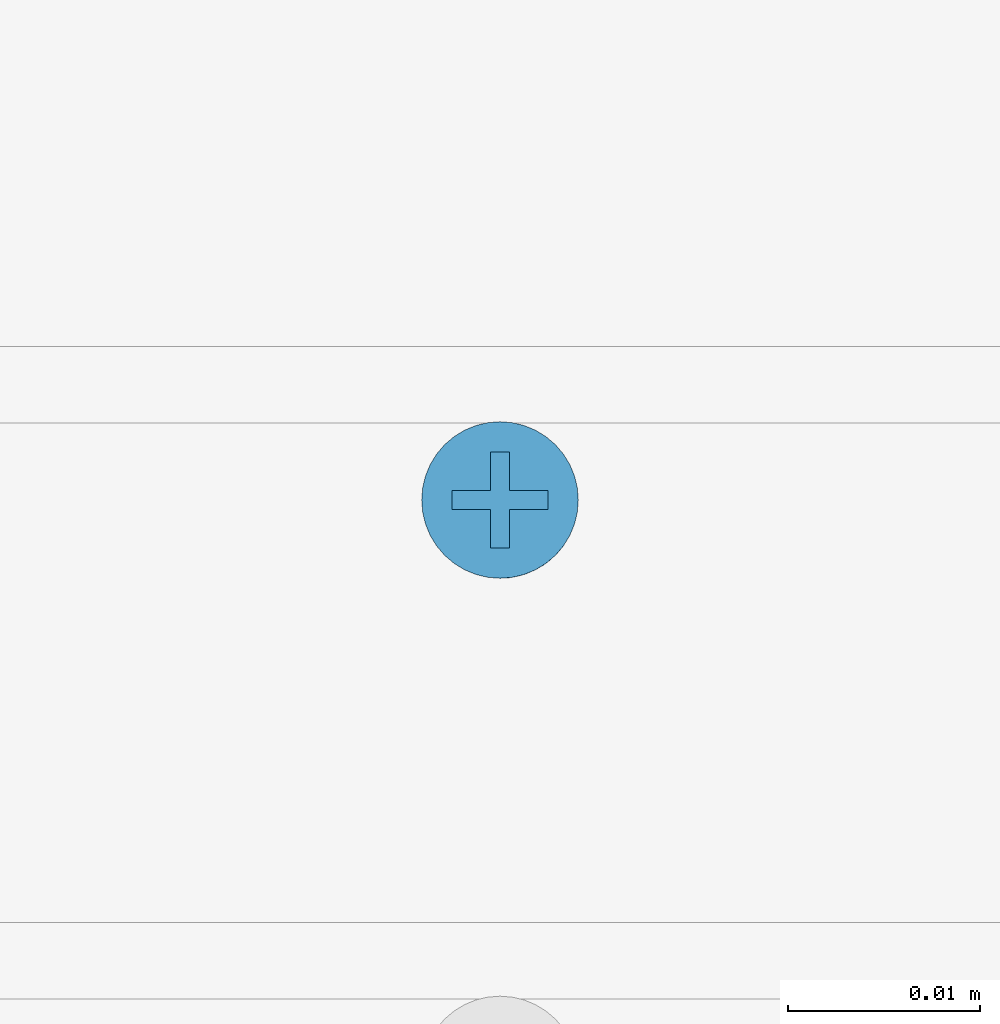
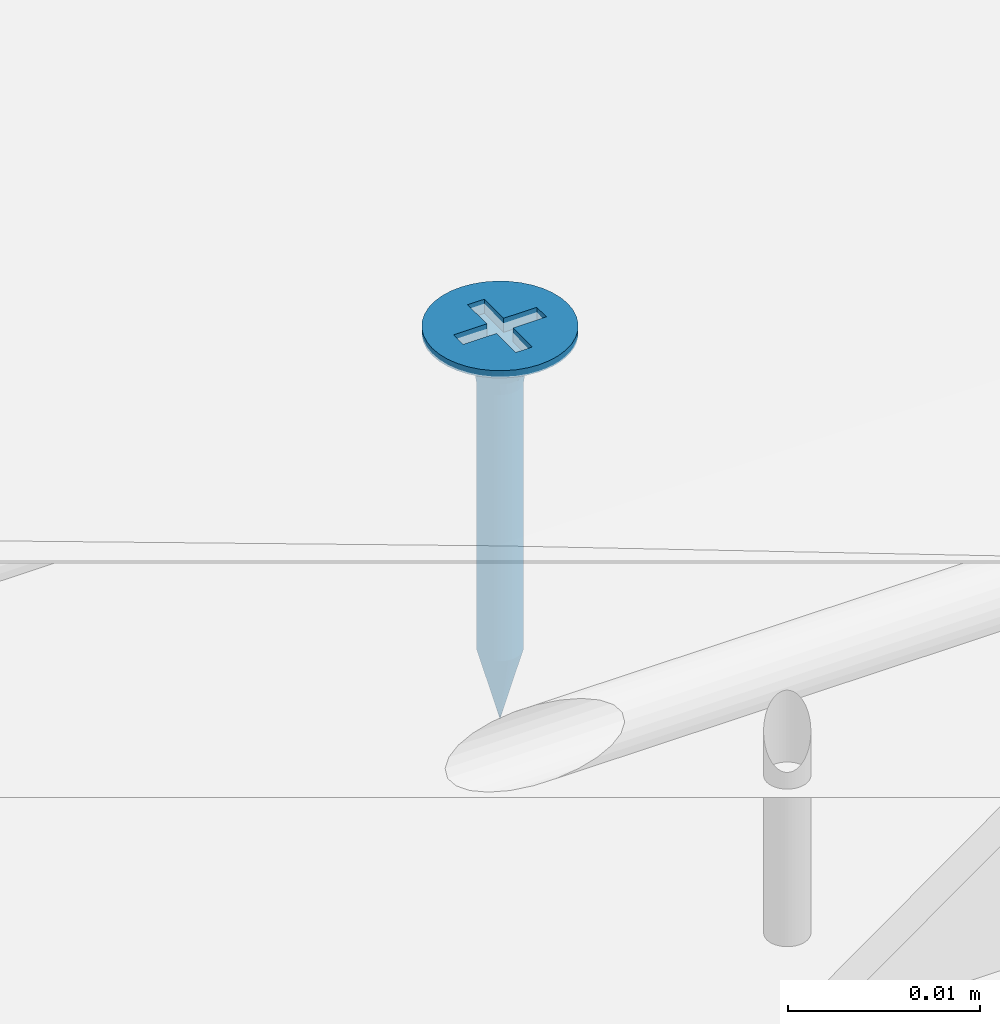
# One storey, part 5 of 38: 1 slab.
"""IFC2X3 building model written with IfcOpenShell, lengths in millimetres."""

from ifc_helpers import new_model, entity, si_unit, converted_unit, direction, frame, origin, origin_with_axes, place, context, project, spatial, faceted_brep, element, save


model = new_model("IFC2X3")

# Units and contexts
model_context = context("Model", 3, precision=1e-05, world=origin(), true_north=direction((0.0, 1.0, 0.0)))
ifc_project = project(units=[si_unit("LENGTHUNIT", "METRE", prefix="MILLI"), si_unit("AREAUNIT", "SQUARE_METRE"), si_unit("VOLUMEUNIT", "CUBIC_METRE"), converted_unit("PLANEANGLEUNIT", "DEGREE", entity("IfcPlaneAngleMeasure", 0.01745), si_unit("PLANEANGLEUNIT", "RADIAN"), dimensions=[0, 0, 0, 0, 0, 0, 0]), si_unit("SOLIDANGLEUNIT", "STERADIAN"), si_unit("MASSUNIT", "GRAM"), si_unit("TIMEUNIT", "SECOND"), si_unit("THERMODYNAMICTEMPERATUREUNIT", "DEGREE_CELSIUS"), si_unit("LUMINOUSINTENSITYUNIT", "LUMEN")], contexts=[model_context])

# Site, building, storey
site_placement = place(None, origin_with_axes())
site = spatial("IfcSite", under=ifc_project, at=site_placement, Name="Default Site", CompositionType="ELEMENT")
building_placement = place(site_placement, origin_with_axes())
building = spatial("IfcBuilding", under=site, at=building_placement, Name="Default Building", CompositionType="ELEMENT")
storey_placement = place(building_placement, origin_with_axes())
storey = spatial("IfcBuildingStorey", under=building, at=storey_placement, Name="Default Building Storey", CompositionType="ELEMENT", Elevation=0.0)

# Slab
slab_placement = place(storey_placement, frame((2385.048962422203, 958.3800775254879, -3328.636918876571), z_axis=(-1.85031715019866e-13, 1.0, -1.136587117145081e-12), x_axis=(-1.0, -1.850317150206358e-13, -6.773047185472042e-13)))
element("IfcSlab", 1, at=slab_placement, inside=storey, Name="Wkręt RIGIPS Rigidur 3,9x19 mm", context=model_context, shape_type="Brep", body=[
    faceted_brep([(-141.5377463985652, 3390.556721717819, 555.8000000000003), (-141.5377463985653, 3391.020944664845, 555.8000000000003), (-141.4875329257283, 3391.020944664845, 555.1619773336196), (-141.4875329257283, 3390.556721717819, 555.1619773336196), (-141.3381289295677, 3391.020944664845, 554.5396649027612), (-141.3381289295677, 3390.556721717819, 554.5396649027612), (-141.0932132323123, 3391.020944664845, 553.9483861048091), (-141.0932132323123, 3390.556721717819, 553.9483861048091), (-140.7588164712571, 3391.020944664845, 553.4027001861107), (-140.7588164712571, 3390.556721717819, 553.4027001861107), (-140.3431726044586, 3391.020944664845, 552.9160437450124), (-140.4541727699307, 3390.556721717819, 553.0314907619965), (-140.1080097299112, 3390.556721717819, 552.6986614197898), (-139.8565161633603, 3391.020944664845, 552.5003998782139), (-139.7251262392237, 3390.556721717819, 552.4088262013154), (-139.310830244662, 3391.020944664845, 552.1660031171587), (-139.310830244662, 3390.556721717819, 552.1660031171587), (-138.8708651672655, 3390.556721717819, 551.9735584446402), (-138.7195514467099, 3391.020944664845, 551.9210874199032), (-138.4113302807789, 3390.556721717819, 551.8341600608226), (-137.9385961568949, 3390.556721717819, 551.7497404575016), (-138.0972390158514, 3391.020944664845, 551.7716834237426), (-137.4592163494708, 3391.020944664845, 551.7214699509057), (-137.4592163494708, 3390.556721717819, 551.7214699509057), (-136.8211936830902, 3391.020944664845, 551.7716834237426), (-136.8211936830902, 3390.556721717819, 551.7716834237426), (-136.1988812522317, 3391.020944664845, 551.9210874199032), (-136.1988812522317, 3390.556721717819, 551.9210874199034), (-135.6076024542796, 3391.020944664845, 552.1660031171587), (-135.6076024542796, 3390.556721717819, 552.1660031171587), (-135.0619165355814, 3391.020944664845, 552.5003998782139), (-135.0619165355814, 3390.556721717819, 552.5003998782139), (-134.575260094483, 3391.020944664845, 552.9160437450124), (-134.575260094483, 3390.556721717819, 552.9160437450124), (-134.1596162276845, 3391.020944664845, 553.4027001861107), (-134.1596162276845, 3390.556721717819, 553.4027001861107), (-133.8252194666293, 3391.020944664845, 553.9483861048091), (-133.8252194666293, 3390.556721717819, 553.9483861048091), (-133.5803037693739, 3391.020944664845, 554.5396649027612), (-133.5803037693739, 3390.556721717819, 554.5396649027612), (-133.4308997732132, 3391.020944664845, 556.4380226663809), (-133.4308997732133, 3390.556721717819, 556.4380226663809), (-133.3806863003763, 3390.556721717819, 555.8000000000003), (-133.3806863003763, 3391.020944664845, 555.8000000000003), (-133.4308997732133, 3390.556721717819, 555.1619773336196), (-133.4308997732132, 3391.020944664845, 555.1619773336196), (-133.5803037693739, 3391.020944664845, 557.0603350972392), (-133.5803037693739, 3390.556721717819, 557.0603350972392), (-133.8252194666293, 3391.020944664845, 557.6516138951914), (-133.8252194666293, 3390.556721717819, 557.6516138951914), (-134.1596162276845, 3391.020944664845, 558.1972998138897), (-134.1596162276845, 3390.556721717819, 558.1972998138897), (-134.575260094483, 3391.020944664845, 558.683956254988), (-134.575260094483, 3390.556721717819, 558.683956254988), (-135.0619165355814, 3391.020944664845, 559.0996001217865), (-135.0619165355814, 3390.556721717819, 559.0996001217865), (-135.6076024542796, 3391.020944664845, 559.4339968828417), (-135.6076024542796, 3390.556721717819, 559.4339968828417), (-136.1988812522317, 3391.020944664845, 559.6789125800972), (-136.1988812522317, 3390.556721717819, 559.6789125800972), (-136.8211936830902, 3391.020944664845, 559.8283165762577), (-136.8211936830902, 3390.556721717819, 559.8283165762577), (-137.4592163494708, 3391.020944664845, 559.8785300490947), (-137.4592163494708, 3390.556721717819, 559.8785300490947), (-138.0972390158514, 3391.020944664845, 559.8283165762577), (-138.0972390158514, 3390.556721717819, 559.8283165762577), (-138.7195514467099, 3391.020944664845, 559.6789125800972), (-138.7195514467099, 3390.556721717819, 559.6789125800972), (-139.310830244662, 3391.020944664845, 559.4339968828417), (-139.310830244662, 3390.556721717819, 559.4339968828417), (-139.8565161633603, 3391.020944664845, 559.0996001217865), (-139.8565161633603, 3390.556721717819, 559.0996001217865), (-140.3431726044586, 3391.020944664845, 558.683956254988), (-140.3431726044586, 3390.556721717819, 558.683956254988), (-140.7588164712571, 3391.020944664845, 558.1972998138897), (-140.7588164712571, 3390.556721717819, 558.1972998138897), (-141.0932132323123, 3391.020944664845, 557.6516138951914), (-141.0932132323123, 3390.556721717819, 557.6516138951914), (-141.3381289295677, 3391.020944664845, 557.0603350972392), (-141.3381289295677, 3390.556721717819, 557.0603350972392), (-141.4875329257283, 3391.020944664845, 556.4380226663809), (-141.4875329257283, 3390.556721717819, 556.4380226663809), (-137.80606154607, 3388.229732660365, 554.5055560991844), (-137.4592163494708, 3387.475459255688, 554.5693795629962), (-137.6517277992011, 3387.475459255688, 554.5845305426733), (-137.4592163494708, 3388.229732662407, 554.4598930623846), (-137.8394989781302, 3387.475459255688, 554.6296104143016), (-138.1292698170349, 3388.229732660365, 554.639433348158), (-138.0179063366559, 3387.475459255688, 554.7035091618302), (-138.1825568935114, 3387.475459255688, 554.804407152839), (-138.4068150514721, 3388.229732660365, 554.8524012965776), (-138.3293964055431, 3387.475459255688, 554.929819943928), (-138.6197830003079, 3388.229732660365, 555.1299465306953), (-138.4548091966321, 3387.475459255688, 555.0766594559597), (-138.5557071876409, 3387.475459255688, 555.2413100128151), (-138.7536602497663, 3388.229732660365, 555.4531548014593), (-138.6296059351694, 3387.475459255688, 555.4197173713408), (-138.6746858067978, 3387.475459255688, 555.60748855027), (-138.7993232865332, 3388.229732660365, 555.7999999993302), (-138.6898367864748, 3387.475459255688, 555.8000000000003), (-138.753660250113, 3388.229732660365, 556.1468451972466), (-138.6746858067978, 3387.475459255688, 555.9925114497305), (-138.6296059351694, 3387.475459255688, 556.1802826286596), (-138.619783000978, 3388.229732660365, 556.4700534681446), (-138.5557071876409, 3387.475459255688, 556.3586899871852), (-138.4548091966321, 3387.475459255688, 556.5233405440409), (-138.4068150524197, 3388.229732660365, 556.7475987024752), (-138.3293964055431, 3387.475459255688, 556.6701800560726), (-138.1292698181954, 3388.229732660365, 556.9605666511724), (-138.1825568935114, 3387.475459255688, 556.7955928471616), (-138.0179063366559, 3387.475459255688, 556.8964908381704), (-137.8060615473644, 3388.229732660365, 557.0944439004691), (-137.8394989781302, 3387.475459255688, 556.9703895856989), (-137.6517277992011, 3387.475459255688, 557.0154694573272), (-137.4592163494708, 3388.229732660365, 557.1401069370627), (-137.4592163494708, 3387.475459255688, 557.0306204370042), (-137.1123711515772, 3388.229732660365, 557.0944439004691), (-137.2667048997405, 3387.475459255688, 557.0154694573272), (-137.0789337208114, 3387.475459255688, 556.9703895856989), (-136.7891628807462, 3388.229732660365, 556.9605666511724), (-136.9005263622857, 3387.475459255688, 556.8964908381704), (-136.7358758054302, 3387.475459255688, 556.7955928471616), (-136.5116176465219, 3388.229732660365, 556.7475987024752), (-136.5890362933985, 3387.475459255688, 556.6701800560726), (-136.2986496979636, 3388.229732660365, 556.4700534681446), (-136.4636235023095, 3387.475459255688, 556.5233405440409), (-136.3627255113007, 3387.475459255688, 556.3586899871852), (-136.1647724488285, 3388.229732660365, 556.1468451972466), (-136.2888267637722, 3387.475459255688, 556.1802826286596), (-136.2437468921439, 3387.475459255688, 555.9925114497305), (-136.1191094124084, 3388.229732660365, 555.7999999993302), (-136.2285959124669, 3387.475459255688, 555.8000000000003), (-136.1647724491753, 3388.229732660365, 555.4531548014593), (-136.2437468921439, 3387.475459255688, 555.60748855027), (-136.2888267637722, 3387.475459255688, 555.4197173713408), (-136.2986496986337, 3388.229732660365, 555.1299465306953), (-136.3627255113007, 3387.475459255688, 555.2413100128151), (-136.4636235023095, 3387.475459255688, 555.0766594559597), (-136.5116176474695, 3388.229732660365, 554.8524012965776), (-136.5890362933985, 3387.475459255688, 554.929819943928), (-136.7891628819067, 3388.229732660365, 554.639433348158), (-136.7358758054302, 3387.475459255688, 554.804407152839), (-136.9005263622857, 3387.475459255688, 554.7035091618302), (-137.1123711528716, 3388.229732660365, 554.5055560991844), (-137.0789337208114, 3387.475459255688, 554.6296104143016), (-137.2667048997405, 3387.475459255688, 554.5845305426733), (-137.4592163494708, 3388.936142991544, 554.1737111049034), (-137.8801308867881, 3388.936142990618, 554.229125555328), (-138.2723607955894, 3388.936142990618, 554.3915925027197), (-138.6091762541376, 3388.936142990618, 554.6500400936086), (-138.8676238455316, 3388.936142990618, 554.9868555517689), (-139.0300907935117, 3388.936142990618, 555.3790854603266), (-139.0855052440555, 3388.936142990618, 555.7999999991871), (-139.0300907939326, 3388.936142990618, 556.2209145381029), (-138.8676238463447, 3388.936142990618, 556.6131444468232), (-138.6091762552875, 3388.936142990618, 556.9499599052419), (-138.2723607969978, 3388.936142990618, 557.2084074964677), (-137.880130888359, 3388.936142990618, 557.3708744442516), (-137.4592163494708, 3388.936142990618, 557.426288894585), (-137.0383018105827, 3388.936142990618, 557.3708744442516), (-136.6460719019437, 3388.936142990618, 557.2084074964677), (-136.3092564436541, 3388.936142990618, 556.9499599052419), (-136.0508088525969, 3388.936142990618, 556.6131444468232), (-135.8883419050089, 3388.936142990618, 556.2209145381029), (-135.8329274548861, 3388.936142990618, 555.7999999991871), (-135.8883419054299, 3388.936142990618, 555.3790854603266), (-136.05080885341, 3388.936142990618, 554.9868555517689), (-136.309256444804, 3388.936142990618, 554.6500400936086), (-136.6460719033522, 3388.936142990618, 554.3915925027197), (-137.0383018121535, 3388.936142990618, 554.229125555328), (-137.4592163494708, 3389.553938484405, 553.7273431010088), (-137.9956594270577, 3389.553938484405, 553.7979671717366), (-138.4955447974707, 3389.553938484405, 554.005026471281), (-138.9248060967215, 3389.553938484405, 554.3344102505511), (-139.2541898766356, 3389.553938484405, 554.7636715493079), (-139.4612491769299, 3389.553938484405, 555.2635569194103), (-139.5318732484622, 3389.553938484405, 555.7999999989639), (-139.4612491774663, 3389.553938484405, 556.3364430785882), (-139.2541898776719, 3389.553938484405, 556.8363284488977), (-138.9248060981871, 3389.553938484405, 557.2655897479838), (-138.4955447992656, 3389.553938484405, 557.594973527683), (-137.9956594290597, 3389.553938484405, 557.8020328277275), (-137.4592163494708, 3389.553938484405, 557.8726568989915), (-136.9227732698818, 3389.553938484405, 557.8020328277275), (-136.4228878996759, 3389.553938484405, 557.594973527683), (-135.9936266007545, 3389.553938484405, 557.2655897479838), (-135.6642428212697, 3389.553938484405, 556.8363284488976), (-135.4571835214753, 3389.553938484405, 556.3364430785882), (-135.3865594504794, 3389.553938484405, 555.7999999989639), (-135.4571835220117, 3389.553938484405, 555.2635569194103), (-135.664242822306, 3389.553938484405, 554.7636715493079), (-135.9936266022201, 3389.553938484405, 554.3344102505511), (-136.4228879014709, 3389.553938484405, 554.005026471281), (-136.9227732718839, 3389.553938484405, 553.7979671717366), (-137.4592163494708, 3390.047479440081, 553.1465393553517), (-138.1459824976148, 3390.047479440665, 553.2369538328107), (-138.7859466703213, 3390.047479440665, 553.5020356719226), (-139.3354963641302, 3390.047479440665, 553.9237199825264), (-139.7571806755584, 3390.047479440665, 554.4732696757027), (-140.0222625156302, 3390.047479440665, 555.1132338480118), (-140.1126769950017, 3390.047479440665, 555.7999999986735), (-140.0222625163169, 3390.047479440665, 556.4867661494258), (-139.7571806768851, 3390.047479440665, 557.1267303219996), (-139.3354963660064, 3390.047479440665, 557.6762800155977), (-138.7859466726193, 3390.047479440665, 558.0979643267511), (-138.1459825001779, 3390.047479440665, 558.3630461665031), (-137.4592163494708, 3390.047479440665, 558.4534606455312), (-136.7724501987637, 3390.047479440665, 558.3630461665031), (-136.1324860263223, 3390.047479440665, 558.0979643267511), (-135.5829363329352, 3390.047479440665, 557.6762800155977), (-135.1612520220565, 3390.047479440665, 557.1267303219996), (-134.8961701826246, 3390.047479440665, 556.4867661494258), (-134.8057557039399, 3390.047479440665, 555.7999999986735), (-134.8961701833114, 3390.047479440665, 555.1132338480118), (-135.1612520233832, 3390.047479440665, 554.4732696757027), (-135.5829363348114, 3390.047479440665, 553.9237199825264), (-136.1324860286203, 3390.047479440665, 553.5020356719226), (-136.7724502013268, 3390.047479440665, 553.2369538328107), (-137.4592163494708, 3390.388294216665, 552.4648055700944), (-138.3224281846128, 3390.388294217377, 552.578449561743), (-139.1268135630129, 3390.388294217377, 552.9116368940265), (-139.8175549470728, 3390.388294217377, 553.4416613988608), (-140.3475794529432, 3390.388294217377, 554.1324027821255), (-140.6807667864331, 3390.388294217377, 554.9367881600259), (-140.7944107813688, 3390.388294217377, 555.7999999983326), (-140.6807667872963, 3390.388294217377, 556.6632118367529), (-140.3475794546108, 3390.388294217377, 557.4675972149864), (-139.8175549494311, 3390.388294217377, 558.1583385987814), (-139.1268135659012, 3390.388294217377, 558.6883631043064), (-138.3224281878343, 3390.388294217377, 559.0215504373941), (-137.4592163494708, 3390.388294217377, 559.1351944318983), (-136.5960045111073, 3390.388294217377, 559.0215504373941), (-135.7916191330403, 3390.388294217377, 558.6883631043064), (-135.1008777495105, 3390.388294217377, 558.1583385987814), (-134.5708532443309, 3390.388294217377, 557.4675972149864), (-134.2376659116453, 3390.388294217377, 556.6632118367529), (-134.1240219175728, 3390.388294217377, 555.7999999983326), (-134.2376659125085, 3390.388294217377, 554.9367881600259), (-134.5708532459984, 3390.388294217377, 554.1324027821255), (-135.1008777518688, 3390.388294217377, 553.4416613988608), (-135.7916191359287, 3390.388294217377, 552.9116368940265), (-136.5960045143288, 3390.388294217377, 552.578449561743), (-138.6898367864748, 3370.55807436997, 555.8000000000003), (-138.6746858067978, 3370.55807436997, 555.60748855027), (-138.6296059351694, 3370.55807436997, 555.4197173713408), (-138.5557071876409, 3370.55807436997, 555.2413100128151), (-138.4548091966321, 3370.55807436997, 555.0766594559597), (-138.3293964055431, 3370.55807436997, 554.929819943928), (-138.1825568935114, 3370.55807436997, 554.804407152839), (-138.0179063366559, 3370.55807436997, 554.7035091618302), (-137.8394989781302, 3370.55807436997, 554.6296104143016), (-137.6517277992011, 3370.55807436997, 554.5845305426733), (-137.4592163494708, 3370.55807436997, 554.5693795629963), (-137.2667048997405, 3370.55807436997, 554.5845305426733), (-137.0789337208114, 3370.55807436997, 554.6296104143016), (-136.9005263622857, 3370.55807436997, 554.7035091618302), (-136.7358758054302, 3370.55807436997, 554.804407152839), (-136.5890362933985, 3370.55807436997, 554.929819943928), (-136.4636235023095, 3370.55807436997, 555.0766594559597), (-136.3627255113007, 3370.55807436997, 555.2413100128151), (-136.2888267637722, 3370.55807436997, 555.4197173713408), (-136.2437468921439, 3370.55807436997, 555.9925114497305), (-136.2285959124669, 3370.55807436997, 555.8000000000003), (-136.2437468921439, 3370.55807436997, 555.60748855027), (-136.2888267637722, 3370.55807436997, 556.1802826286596), (-136.3627255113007, 3370.55807436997, 556.3586899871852), (-136.4636235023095, 3370.55807436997, 556.5233405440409), (-136.5890362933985, 3370.55807436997, 556.6701800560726), (-136.7358758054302, 3370.55807436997, 556.7955928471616), (-136.9005263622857, 3370.55807436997, 556.8964908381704), (-137.0789337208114, 3370.55807436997, 556.9703895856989), (-137.2667048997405, 3370.55807436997, 557.0154694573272), (-137.4592163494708, 3370.55807436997, 557.0306204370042), (-137.6517277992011, 3370.55807436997, 557.0154694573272), (-137.8394989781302, 3370.55807436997, 556.9703895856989), (-138.0179063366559, 3370.55807436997, 556.8964908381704), (-138.1825568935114, 3370.55807436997, 556.7955928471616), (-138.3293964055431, 3370.55807436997, 556.6701800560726), (-138.4548091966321, 3370.55807436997, 556.5233405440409), (-138.5557071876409, 3370.55807436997, 556.3586899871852), (-138.6296059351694, 3370.55807436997, 556.1802826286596), (-138.6746858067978, 3370.55807436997, 555.9925114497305), (-137.4592163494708, 3366.021033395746, 555.8000000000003), (-139.9592163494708, 3391.020944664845, 556.3000000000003), (-137.9592163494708, 3391.020944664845, 556.3000000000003), (-139.9592163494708, 3391.020944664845, 555.3000000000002), (-137.9592163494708, 3391.020944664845, 555.3000000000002), (-137.9592163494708, 3391.020944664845, 553.3000000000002), (-136.9592163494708, 3391.020944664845, 553.3000000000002), (-136.9592163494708, 3391.020944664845, 555.3000000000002), (-134.9592163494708, 3391.020944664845, 555.3000000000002), (-134.9592163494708, 3391.020944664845, 556.3000000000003), (-136.9592163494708, 3391.020944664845, 556.3000000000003), (-136.9592163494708, 3391.020944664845, 558.3000000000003), (-137.9592163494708, 3391.020944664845, 558.3000000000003), (-136.9592163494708, 3390.128974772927, 556.3000000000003), (-134.9592163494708, 3390.128974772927, 556.3000000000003), (-134.9592163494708, 3390.128974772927, 555.3000000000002), (-136.9592163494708, 3390.128974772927, 555.3000000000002), (-136.9592163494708, 3390.128974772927, 553.3000000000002), (-137.9592163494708, 3390.128974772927, 553.3000000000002), (-137.9592163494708, 3390.128974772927, 555.3000000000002), (-139.9592163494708, 3390.128974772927, 555.3000000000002), (-139.9592163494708, 3390.128974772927, 556.3000000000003), (-137.9592163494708, 3390.128974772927, 556.3000000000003), (-137.9592163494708, 3390.128974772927, 558.3000000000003), (-136.9592163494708, 3390.128974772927, 558.3000000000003)], [[[0, 1, 2, 3]], [[4, 5, 3, 2]], [[6, 7, 5, 4]], [[7, 6, 8, 9]], [[8, 10, 9]], [[10, 11, 9]], [[12, 11, 13]], [[11, 10, 13]], [[13, 14, 12]], [[13, 15, 14]], [[15, 16, 14]], [[17, 16, 18]], [[16, 15, 18]], [[18, 19, 17]], [[20, 19, 21]], [[19, 18, 21]], [[21, 22, 20]], [[22, 23, 20]], [[23, 22, 24, 25]], [[26, 27, 25, 24]], [[28, 29, 27, 26]], [[29, 28, 30, 31]], [[32, 33, 31, 30]], [[33, 32, 34, 35]], [[36, 37, 35, 34]], [[38, 39, 37, 36]], [[40, 41, 42, 43]], [[43, 42, 44, 45]], [[39, 38, 45, 44]], [[46, 47, 41, 40]], [[48, 49, 47, 46]], [[49, 48, 50, 51]], [[52, 53, 51, 50]], [[53, 52, 54, 55]], [[56, 57, 55, 54]], [[58, 59, 57, 56]], [[59, 58, 60, 61]], [[62, 63, 61, 60]], [[63, 62, 64, 65]], [[66, 67, 65, 64]], [[68, 69, 67, 66]], [[69, 68, 70, 71]], [[72, 73, 71, 70]], [[73, 72, 74, 75]], [[76, 77, 75, 74]], [[78, 79, 77, 76]], [[79, 78, 80, 81]], [[1, 0, 81, 80]], [[82, 83, 84]], [[82, 85, 83]], [[84, 86, 82]], [[82, 86, 87]], [[88, 87, 86]], [[87, 88, 89]], [[89, 90, 87]], [[89, 91, 90]], [[92, 91, 93]], [[92, 90, 91]], [[93, 94, 92]], [[92, 94, 95]], [[96, 95, 94]], [[95, 96, 97]], [[97, 98, 95]], [[97, 99, 98]], [[100, 99, 101]], [[100, 98, 99]], [[101, 102, 100]], [[100, 102, 103]], [[104, 103, 102]], [[103, 104, 105]], [[105, 106, 103]], [[105, 107, 106]], [[108, 107, 109]], [[108, 106, 107]], [[109, 110, 108]], [[108, 110, 111]], [[112, 111, 110]], [[111, 112, 113]], [[113, 114, 111]], [[113, 115, 114]], [[116, 115, 117]], [[116, 114, 115]], [[117, 118, 116]], [[116, 118, 119]], [[120, 119, 118]], [[119, 120, 121]], [[121, 122, 119]], [[121, 123, 122]], [[124, 123, 125]], [[124, 122, 123]], [[125, 126, 124]], [[124, 126, 127]], [[128, 127, 126]], [[127, 128, 129]], [[129, 130, 127]], [[129, 131, 130]], [[132, 131, 133]], [[132, 130, 131]], [[133, 134, 132]], [[132, 134, 135]], [[136, 135, 134]], [[135, 136, 137]], [[137, 138, 135]], [[137, 139, 138]], [[140, 139, 141]], [[140, 138, 139]], [[141, 142, 140]], [[140, 142, 143]], [[144, 143, 142]], [[143, 144, 145]], [[145, 85, 143]], [[145, 83, 85]], [[146, 85, 147]], [[82, 147, 85]], [[87, 148, 147, 82]], [[90, 149, 148, 87]], [[92, 150, 149, 90]], [[95, 151, 150, 92]], [[98, 152, 151, 95]], [[100, 153, 152, 98]], [[103, 154, 153, 100]], [[106, 155, 154, 103]], [[108, 156, 155, 106]], [[111, 157, 156, 108]], [[114, 158, 157, 111]], [[116, 159, 158, 114]], [[119, 160, 159, 116]], [[122, 161, 160, 119]], [[124, 162, 161, 122]], [[127, 163, 162, 124]], [[130, 164, 163, 127]], [[132, 165, 164, 130]], [[135, 166, 165, 132]], [[138, 167, 166, 135]], [[140, 168, 167, 138]], [[143, 169, 168, 140]], [[143, 85, 169]], [[146, 169, 85]], [[170, 146, 171]], [[147, 171, 146]], [[148, 172, 171, 147]], [[149, 173, 172, 148]], [[150, 174, 173, 149]], [[151, 175, 174, 150]], [[152, 176, 175, 151]], [[153, 177, 176, 152]], [[154, 178, 177, 153]], [[155, 179, 178, 154]], [[156, 180, 179, 155]], [[157, 181, 180, 156]], [[158, 182, 181, 157]], [[159, 183, 182, 158]], [[160, 184, 183, 159]], [[161, 185, 184, 160]], [[162, 186, 185, 161]], [[163, 187, 186, 162]], [[164, 188, 187, 163]], [[165, 189, 188, 164]], [[166, 190, 189, 165]], [[167, 191, 190, 166]], [[168, 192, 191, 167]], [[169, 193, 192, 168]], [[169, 146, 193]], [[170, 193, 146]], [[194, 170, 195]], [[171, 195, 170]], [[172, 196, 195, 171]], [[173, 197, 196, 172]], [[174, 198, 197, 173]], [[175, 199, 198, 174]], [[176, 200, 199, 175]], [[177, 201, 200, 176]], [[178, 202, 201, 177]], [[179, 203, 202, 178]], [[180, 204, 203, 179]], [[181, 205, 204, 180]], [[182, 206, 205, 181]], [[183, 207, 206, 182]], [[184, 208, 207, 183]], [[185, 209, 208, 184]], [[186, 210, 209, 185]], [[187, 211, 210, 186]], [[188, 212, 211, 187]], [[189, 213, 212, 188]], [[190, 214, 213, 189]], [[191, 215, 214, 190]], [[192, 216, 215, 191]], [[193, 217, 216, 192]], [[193, 170, 217]], [[194, 217, 170]], [[218, 19, 20]], [[218, 219, 19]], [[20, 23, 218]], [[218, 194, 219]], [[195, 219, 194]], [[219, 16, 17]], [[219, 220, 16]], [[17, 19, 219]], [[196, 220, 219, 195]], [[221, 11, 12]], [[220, 12, 14]], [[220, 221, 12]], [[14, 16, 220]], [[197, 221, 220, 196]], [[222, 7, 9]], [[9, 221, 222]], [[9, 11, 221]], [[198, 222, 221, 197]], [[5, 7, 223]], [[222, 223, 7]], [[199, 223, 222, 198]], [[223, 0, 3]], [[223, 224, 0]], [[3, 5, 223]], [[200, 224, 223, 199]], [[225, 79, 81]], [[81, 224, 225]], [[81, 0, 224]], [[201, 225, 224, 200]], [[225, 226, 77, 79]], [[202, 226, 225, 201]], [[226, 73, 75]], [[226, 227, 73]], [[75, 77, 226]], [[203, 227, 226, 202]], [[228, 69, 71]], [[71, 227, 228]], [[71, 73, 227]], [[204, 228, 227, 203]], [[228, 229, 67, 69]], [[205, 229, 228, 204]], [[229, 63, 65]], [[229, 230, 63]], [[65, 67, 229]], [[206, 230, 229, 205]], [[231, 59, 61]], [[61, 230, 231]], [[61, 63, 230]], [[207, 231, 230, 206]], [[231, 232, 57, 59]], [[208, 232, 231, 207]], [[232, 53, 55]], [[232, 233, 53]], [[55, 57, 232]], [[209, 233, 232, 208]], [[234, 49, 51]], [[51, 233, 234]], [[51, 53, 233]], [[210, 234, 233, 209]], [[234, 235, 47, 49]], [[211, 235, 234, 210]], [[235, 42, 41]], [[235, 236, 42]], [[41, 47, 235]], [[212, 236, 235, 211]], [[237, 39, 44]], [[44, 236, 237]], [[44, 42, 236]], [[213, 237, 236, 212]], [[37, 39, 238]], [[237, 238, 39]], [[214, 238, 237, 213]], [[238, 33, 35]], [[238, 239, 33]], [[35, 37, 238]], [[215, 239, 238, 214]], [[240, 29, 31]], [[31, 239, 240]], [[31, 33, 239]], [[216, 240, 239, 215]], [[27, 29, 241]], [[240, 241, 29]], [[217, 241, 240, 216]], [[217, 194, 241]], [[218, 241, 194]], [[241, 23, 25]], [[241, 218, 23]], [[25, 27, 241]], [[242, 99, 97, 243]], [[96, 244, 243, 97]], [[94, 245, 244, 96]], [[245, 94, 93, 246]], [[91, 247, 246, 93]], [[247, 91, 89, 248]], [[88, 249, 248, 89]], [[86, 250, 249, 88]], [[250, 86, 84, 251]], [[83, 252, 251, 84]], [[252, 83, 145, 253]], [[144, 254, 253, 145]], [[142, 255, 254, 144]], [[255, 142, 141, 256]], [[139, 257, 256, 141]], [[257, 139, 137, 258]], [[136, 259, 258, 137]], [[134, 260, 259, 136]], [[129, 261, 262, 131]], [[131, 262, 263, 133]], [[260, 134, 133, 263]], [[128, 264, 261, 129]], [[126, 265, 264, 128]], [[265, 126, 125, 266]], [[123, 267, 266, 125]], [[267, 123, 121, 268]], [[120, 269, 268, 121]], [[118, 270, 269, 120]], [[270, 118, 117, 271]], [[115, 272, 271, 117]], [[272, 115, 113, 273]], [[112, 274, 273, 113]], [[110, 275, 274, 112]], [[275, 110, 109, 276]], [[107, 277, 276, 109]], [[277, 107, 105, 278]], [[104, 279, 278, 105]], [[102, 280, 279, 104]], [[280, 102, 101, 281]], [[99, 242, 281, 101]], [[243, 244, 282]], [[282, 242, 243]], [[244, 245, 282]], [[246, 247, 282]], [[282, 245, 246]], [[248, 249, 282]], [[282, 247, 248]], [[249, 250, 282]], [[251, 252, 282]], [[282, 250, 251]], [[253, 254, 282]], [[282, 252, 253]], [[254, 255, 282]], [[256, 257, 282]], [[282, 255, 256]], [[258, 259, 282]], [[282, 257, 258]], [[259, 260, 282]], [[263, 262, 282]], [[282, 260, 263]], [[261, 264, 282]], [[282, 262, 261]], [[264, 265, 282]], [[266, 267, 282]], [[282, 265, 266]], [[268, 269, 282]], [[282, 267, 268]], [[269, 270, 282]], [[271, 272, 282]], [[282, 270, 271]], [[273, 274, 282]], [[282, 272, 273]], [[274, 275, 282]], [[276, 277, 282]], [[282, 275, 276]], [[278, 279, 282]], [[282, 277, 278]], [[279, 280, 282]], [[281, 242, 282]], [[282, 280, 281]], [[283, 76, 74, 284]], [[283, 285, 286, 287, 288, 289, 290, 291, 292, 293, 294, 284, 74, 72, 70, 68, 66, 64, 62, 60, 58, 56, 54, 52, 50, 48, 46, 40, 43, 45, 38, 36, 34, 32, 30, 28, 26, 24, 22, 21, 18, 15, 13, 10, 8, 6, 4, 2, 1, 80, 78, 76]], [[295, 296, 297, 298, 299, 300, 301, 302, 303, 304, 305, 306]], [[297, 290, 289, 298]], [[296, 291, 290, 297]], [[295, 292, 291, 296]], [[306, 293, 292, 295]], [[305, 294, 293, 306]], [[304, 284, 294, 305]], [[303, 283, 284, 304]], [[302, 285, 283, 303]], [[301, 286, 285, 302]], [[300, 287, 286, 301]], [[299, 288, 287, 300]], [[298, 289, 288, 299]]]),
])

save(model, "model.ifc")
